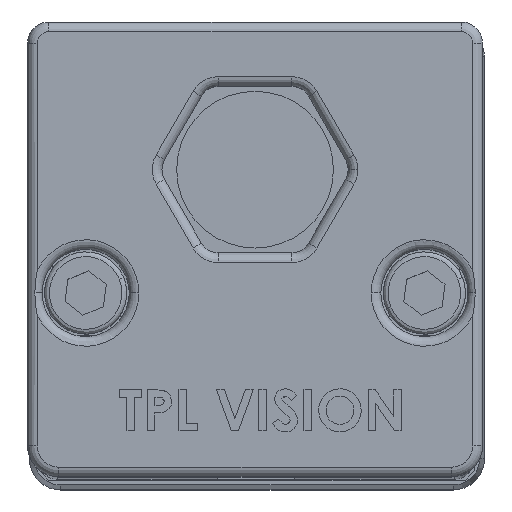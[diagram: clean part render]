
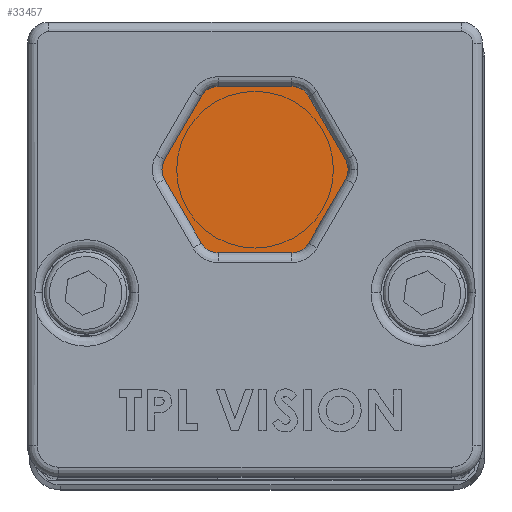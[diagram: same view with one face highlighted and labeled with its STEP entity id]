
A CAD part, top view. The second image highlights one B-rep face of the part: STEP entity #33457.
In plain terms, the highlighted planar face has unit normal (0, 0, 1).
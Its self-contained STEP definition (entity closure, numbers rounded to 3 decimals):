
#11066 = DIRECTION ( 'NONE',  ( -1., 0., 0. ) ) ;
#11067 = VECTOR ( 'NONE', #11066, 1000. ) ;
#11068 = CARTESIAN_POINT ( 'NONE',  ( -5.759, 23.1, 699.5 ) ) ;
#11069 = LINE ( 'NONE', #11068, #11067 ) ;
#11073 = CARTESIAN_POINT ( 'NONE',  ( -5.759, 23.1, 699.5 ) ) ;
#11074 = DIRECTION ( 'NONE',  ( 1., 0., 0. ) ) ;
#11075 = DIRECTION ( 'NONE',  ( 0., 0., 1. ) ) ;
#11076 = CARTESIAN_POINT ( 'NONE',  ( -5.759, 21.1, 699.5 ) ) ;
#11077 = AXIS2_PLACEMENT_3D ( 'NONE', #11076, #11075, #11074 ) ;
#11078 = CIRCLE ( 'NONE', #11077, 2. ) ;
#11104 = CARTESIAN_POINT ( 'NONE',  ( -18.923, 13.5, 699.5 ) ) ;
#11106 = DIRECTION ( 'NONE',  ( 1., 0., 0. ) ) ;
#11108 = DIRECTION ( 'NONE',  ( 0., 0., 1. ) ) ;
#11110 = CARTESIAN_POINT ( 'NONE',  ( -17.191, 14.5, 699.5 ) ) ;
#11112 = AXIS2_PLACEMENT_3D ( 'NONE', #11110, #11108, #11106 ) ;
#11113 = CIRCLE ( 'NONE', #11112, 2. ) ;
#11120 = CARTESIAN_POINT ( 'NONE',  ( -18.923, 15.5, 699.5 ) ) ;
#11122 = CARTESIAN_POINT ( 'NONE',  ( -0.217, 13.5, 699.5 ) ) ;
#11124 = CARTESIAN_POINT ( 'NONE',  ( -4.027, 6.9, 699.5 ) ) ;
#11126 = DIRECTION ( 'NONE',  ( 1., 0., 0. ) ) ;
#11128 = DIRECTION ( 'NONE',  ( 0., 0., 1. ) ) ;
#11130 = CARTESIAN_POINT ( 'NONE',  ( -5.759, 7.9, 699.5 ) ) ;
#11132 = AXIS2_PLACEMENT_3D ( 'NONE', #11130, #11128, #11126 ) ;
#11134 = CIRCLE ( 'NONE', #11132, 2. ) ;
#11139 = DIRECTION ( 'NONE',  ( 1., 0., 0. ) ) ;
#11141 = VECTOR ( 'NONE', #11139, 1000. ) ;
#11143 = CARTESIAN_POINT ( 'NONE',  ( -13.38, 5.9, 699.5 ) ) ;
#11144 = LINE ( 'NONE', #11143, #11141 ) ;
#11147 = CARTESIAN_POINT ( 'NONE',  ( -4.027, 22.1, 699.5 ) ) ;
#11151 = DIRECTION ( 'NONE',  ( -0.5, 0.866, 0. ) ) ;
#11152 = VECTOR ( 'NONE', #11151, 1000. ) ;
#11153 = CARTESIAN_POINT ( 'NONE',  ( -0.217, 15.5, 699.5 ) ) ;
#11154 = LINE ( 'NONE', #11153, #11152 ) ;
#11156 = DIRECTION ( 'NONE',  ( 1., 0., 0. ) ) ;
#11158 = DIRECTION ( 'NONE',  ( 0., 0., 1. ) ) ;
#11160 = CARTESIAN_POINT ( 'NONE',  ( -1.949, 14.5, 699.5 ) ) ;
#11161 = AXIS2_PLACEMENT_3D ( 'NONE', #11160, #11158, #11156 ) ;
#11174 = DIRECTION ( 'NONE',  ( 1., 0., 0. ) ) ;
#11175 = DIRECTION ( 'NONE',  ( 0., 0., 1. ) ) ;
#11176 = CARTESIAN_POINT ( 'NONE',  ( -13.38, 21.1, 699.5 ) ) ;
#11177 = AXIS2_PLACEMENT_3D ( 'NONE', #11176, #11175, #11174 ) ;
#11181 = PLANE ( 'NONE',  #11177 ) ;
#11219 = CIRCLE ( 'NONE', #11161, 2. ) ;
#11225 = DIRECTION ( 'NONE',  ( 0.5, 0.866, 0. ) ) ;
#11226 = VECTOR ( 'NONE', #11225, 1000. ) ;
#11228 = CARTESIAN_POINT ( 'NONE',  ( -4.027, 6.9, 699.5 ) ) ;
#11230 = LINE ( 'NONE', #11228, #11226 ) ;
#11281 = FACE_OUTER_BOUND ( 'NONE', #33458, .T. ) ;
#11471 = DIRECTION ( 'NONE',  ( -0.5, -0.866, 0. ) ) ;
#11473 = VECTOR ( 'NONE', #11471, 1000. ) ;
#11474 = CARTESIAN_POINT ( 'NONE',  ( -15.112, 22.1, 699.5 ) ) ;
#11475 = LINE ( 'NONE', #11474, #11473 ) ;
#11480 = CARTESIAN_POINT ( 'NONE',  ( -15.112, 22.1, 699.5 ) ) ;
#11481 = CARTESIAN_POINT ( 'NONE',  ( -13.38, 23.1, 699.5 ) ) ;
#11483 = DIRECTION ( 'NONE',  ( 1., 0., 0. ) ) ;
#11485 = DIRECTION ( 'NONE',  ( 0., 0., 1. ) ) ;
#11486 = CARTESIAN_POINT ( 'NONE',  ( -13.38, 21.1, 699.5 ) ) ;
#11488 = AXIS2_PLACEMENT_3D ( 'NONE', #11486, #11485, #11483 ) ;
#11498 = CIRCLE ( 'NONE', #11488, 2. ) ;
#11668 = CARTESIAN_POINT ( 'NONE',  ( -5.759, 5.9, 699.5 ) ) ;
#11670 = DIRECTION ( 'NONE',  ( 1., 0., 0. ) ) ;
#11672 = DIRECTION ( 'NONE',  ( 0., 0., 1. ) ) ;
#11673 = CARTESIAN_POINT ( 'NONE',  ( -13.38, 7.9, 699.5 ) ) ;
#11675 = AXIS2_PLACEMENT_3D ( 'NONE', #11673, #11672, #11670 ) ;
#11677 = CIRCLE ( 'NONE', #11675, 2. ) ;
#14165 = VECTOR ( 'NONE', #14314, 1000. ) ;
#14166 = CARTESIAN_POINT ( 'NONE',  ( -18.923, 13.5, 699.5 ) ) ;
#14167 = LINE ( 'NONE', #14166, #14165 ) ;
#14310 = CARTESIAN_POINT ( 'NONE',  ( -13.38, 5.9, 699.5 ) ) ;
#14312 = CARTESIAN_POINT ( 'NONE',  ( -15.112, 6.9, 699.5 ) ) ;
#14314 = DIRECTION ( 'NONE',  ( 0.5, -0.866, 0. ) ) ;
#19274 = CARTESIAN_POINT ( 'NONE',  ( -1.949, 14.5, 699.5 ) ) ;
#19275 = AXIS2_PLACEMENT_3D ( 'NONE', #19274, #19343, #19342 ) ;
#19276 = CIRCLE ( 'NONE', #19275, 2. ) ;
#19340 = CARTESIAN_POINT ( 'NONE',  ( -0.217, 15.5, 699.5 ) ) ;
#19341 = CARTESIAN_POINT ( 'NONE',  ( 0.051, 14.5, 699.5 ) ) ;
#19342 = DIRECTION ( 'NONE',  ( 1., 0., 0. ) ) ;
#19343 = DIRECTION ( 'NONE',  ( 0., 0., 1. ) ) ;
#33457 = ADVANCED_FACE ( 'NONE', ( #11281 ), #11181, .T. ) ;
#33458 = EDGE_LOOP ( 'NONE', ( #33459, #33513, #33467, #34004, #34007, #33519, #33461, #33464, #33482, #33484, #33485, #33488, #33491 ) ) ;
#33459 = ORIENTED_EDGE ( 'NONE', *, *, #33510, .T. ) ;
#33460 = EDGE_CURVE ( 'NONE', #34008, #33520, #11144, .T. ) ;
#33461 = ORIENTED_EDGE ( 'NONE', *, *, #33462, .T. ) ;
#33462 = EDGE_CURVE ( 'NONE', #33520, #33463, #11134, .T. ) ;
#33463 = VERTEX_POINT ( 'NONE', #11124 ) ;
#33464 = ORIENTED_EDGE ( 'NONE', *, *, #33481, .T. ) ;
#33465 = VERTEX_POINT ( 'NONE', #11122 ) ;
#33466 = VERTEX_POINT ( 'NONE', #11120 ) ;
#33467 = ORIENTED_EDGE ( 'NONE', *, *, #33468, .T. ) ;
#33468 = EDGE_CURVE ( 'NONE', #33466, #33469, #11113, .T. ) ;
#33469 = VERTEX_POINT ( 'NONE', #11104 ) ;
#33481 = EDGE_CURVE ( 'NONE', #33463, #33465, #11230, .T. ) ;
#33482 = ORIENTED_EDGE ( 'NONE', *, *, #33483, .T. ) ;
#33483 = EDGE_CURVE ( 'NONE', #33465, #36276, #11219, .T. ) ;
#33484 = ORIENTED_EDGE ( 'NONE', *, *, #36275, .T. ) ;
#33485 = ORIENTED_EDGE ( 'NONE', *, *, #33486, .T. ) ;
#33486 = EDGE_CURVE ( 'NONE', #36277, #33487, #11154, .T. ) ;
#33487 = VERTEX_POINT ( 'NONE', #11147 ) ;
#33488 = ORIENTED_EDGE ( 'NONE', *, *, #33489, .T. ) ;
#33489 = EDGE_CURVE ( 'NONE', #33487, #33490, #11078, .T. ) ;
#33490 = VERTEX_POINT ( 'NONE', #11073 ) ;
#33491 = ORIENTED_EDGE ( 'NONE', *, *, #33492, .T. ) ;
#33492 = EDGE_CURVE ( 'NONE', #33490, #33511, #11069, .T. ) ;
#33510 = EDGE_CURVE ( 'NONE', #33511, #33512, #11498, .T. ) ;
#33511 = VERTEX_POINT ( 'NONE', #11481 ) ;
#33512 = VERTEX_POINT ( 'NONE', #11480 ) ;
#33513 = ORIENTED_EDGE ( 'NONE', *, *, #33514, .T. ) ;
#33514 = EDGE_CURVE ( 'NONE', #33512, #33466, #11475, .T. ) ;
#33518 = EDGE_CURVE ( 'NONE', #34006, #34008, #11677, .T. ) ;
#33519 = ORIENTED_EDGE ( 'NONE', *, *, #33460, .T. ) ;
#33520 = VERTEX_POINT ( 'NONE', #11668 ) ;
#34004 = ORIENTED_EDGE ( 'NONE', *, *, #34005, .T. ) ;
#34005 = EDGE_CURVE ( 'NONE', #33469, #34006, #14167, .T. ) ;
#34006 = VERTEX_POINT ( 'NONE', #14312 ) ;
#34007 = ORIENTED_EDGE ( 'NONE', *, *, #33518, .T. ) ;
#34008 = VERTEX_POINT ( 'NONE', #14310 ) ;
#36275 = EDGE_CURVE ( 'NONE', #36276, #36277, #19276, .T. ) ;
#36276 = VERTEX_POINT ( 'NONE', #19341 ) ;
#36277 = VERTEX_POINT ( 'NONE', #19340 ) ;
